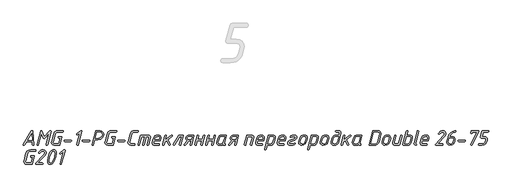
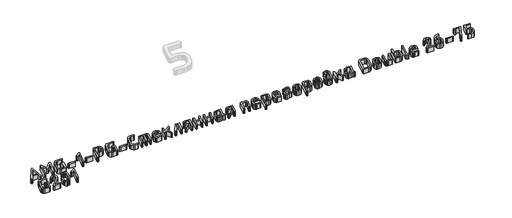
# One storey, part 13 of 22: 1 proxy.
"""IFC4 building model written with IfcOpenShell, lengths in millimetres."""

from ifc_helpers import new_model, si_unit, origin, origin_with_axes, place, context, project, spatial, polyline, outline, extrude, element, save

model = new_model("IFC4")

# Units and contexts
model_context = context("Model", 3, world=origin())
ifc_project = project(units=[si_unit("LENGTHUNIT", "METRE", prefix="MILLI")], contexts=[model_context])

# Site, building, storey
site = spatial("IfcSite", under=ifc_project)
building = spatial("IfcBuilding", under=site)
storey = spatial("IfcBuildingStorey", under=building, Name="Уровень 1", Elevation=0.0)

# Proxy
placement = place(None, origin())
element("IfcBuildingElementProxy", 1, Name="30", ObjectType="30", at=placement, inside=storey, context=model_context, shape_type="SweptSolid", body=[
    extrude(outline(polyline([(-36154.4219264, -25695.2113625), (-36210.5539274, -25695.2113625), (-36231.3287604, -25729.8494015), (-36237.7210168, -25733.5649005), (-36243.0345798, -25731.3276108), (-36245.1919664, -25726.0140477), (-36244.0733215, -25722.0188875), (-36161.4534084, -25586.2633437), (-36154.9812489, -25582.7076511), (-36149.6277342, -25584.4455458), (-36147.4703477, -25589.6592298), (-36137.0429795, -25726.2537573), (-36138.9406806, -25731.7371147), (-36144.6337839, -25733.5649005), (-36149.9573349, -25731.7970421), (-36152.0248303, -25726.493467), (-36154.4219264, -25695.2113625)]), holes=[polyline([(-36155.5405713, -25679.8699473), (-36160.6543764, -25613.3904815), (-36201.3251073, -25679.8699473), (-36155.5405713, -25679.8699473)])]), origin_with_axes(), (0.0, 0.0, 1.0), 50.0),
    extrude(outline(polyline([(-36059.3371135, -25613.3505299), (-36089.9000891, -25727.9716762), (-36092.4370158, -25732.1665945), (-36097.0913775, -25733.5649005), (-36102.3649889, -25731.3276108), (-36104.6821818, -25726.2537573), (-36104.362569, -25723.976516), (-36068.0865143, -25588.3008754), (-36065.5595755, -25584.1059572), (-36060.9351776, -25582.7076511), (-36053.9036956, -25587.2621337), (-36029.8128796, -25644.5527311), (-35973.0816046, -25585.1047472), (-35967.7680415, -25582.7076511), (-35962.1348656, -25584.5654006), (-35960.2571403, -25590.1386491), (-35960.49685, -25592.2960356), (-35996.732953, -25727.9716762), (-35999.3198193, -25732.1665945), (-36003.8842898, -25733.5649005), (-36009.1778771, -25731.3276108), (-36011.5150458, -25726.2537573), (-36011.1554814, -25723.976516), (-35982.5101827, -25616.6665129), (-36027.0961706, -25663.1701777), (-36032.4097337, -25665.4074674), (-36039.2414576, -25660.8929364), (-36059.3371135, -25613.3505299)])), origin_with_axes(), (0.0, 0.0, 1.0), 50.0),
    extrude(outline(polyline([(-35842.6795754, -25598.0490663), (-35891.3406268, -25598.0490663), (-35904.0052846, -25600.8356905), (-35914.512556, -25609.1955633), (-35920.5452479, -25620.5817699), (-35940.7607585, -25695.6907818), (-35941.5597906, -25701.2840061), (-35936.3860581, -25713.5491479), (-35923.5016664, -25718.2234853), (-35884.6287576, -25718.2234853), (-35868.4883104, -25659.4147271), (-35882.2316615, -25659.4147271), (-35887.8648374, -25657.4970502), (-35889.7425627, -25651.7440195), (-35887.8648374, -25645.9909888), (-35882.2316615, -25644.0733119), (-35856.782491, -25644.0733119), (-35852.3478631, -25645.4316663), (-35850.8696539, -25649.5067298), (-35850.9895087, -25651.5442615), (-35871.1251161, -25726.0939509), (-35874.6108934, -25731.6971631), (-35880.9931618, -25733.5649005), (-35927.5767298, -25733.5649005), (-35941.7995002, -25729.4199218), (-35952.8261424, -25716.9849857), (-35957.0210606, -25702.1229897), (-35956.2220285, -25695.8505882), (-35936.1263727, -25620.4219634), (-35926.1784238, -25599.6471304), (-35909.5186057, -25586.9425209), (-35887.2256117, -25582.7076511), (-35842.6795754, -25582.7076511), (-35837.0763632, -25584.625328), (-35835.2086258, -25590.3783587), (-35837.0763632, -25596.1313894), (-35842.6795754, -25598.0490663)])), origin_with_axes(), (0.0, 0.0, 1.0), 50.0),
    extrude(outline(polyline([(-35758.9809691, -25695.2113625), (-35821.0657587, -25695.2113625), (-35826.6689709, -25693.2936856), (-35828.5367083, -25687.5406549), (-35826.6689709, -25681.7876242), (-35821.0657587, -25679.8699473), (-35758.9809691, -25679.8699473), (-35753.3777569, -25681.7876242), (-35751.5100195, -25687.5406549), (-35753.3777569, -25693.2936856), (-35758.9809691, -25695.2113625)])), origin_with_axes(), (0.0, 0.0, 1.0), 50.0),
    extrude(outline(polyline([(-35667.0123811, -25609.7948373), (-35688.4663914, -25626.294849), (-35694.0596157, -25627.7730582), (-35699.1134934, -25624.9964219), (-35700.5317752, -25619.3432702), (-35697.5753567, -25614.3493199), (-35658.5026899, -25585.2645536), (-35654.068062, -25582.7076511), (-35648.4348861, -25584.5654006), (-35646.5571608, -25590.1386491), (-35646.7968704, -25592.2960356), (-35683.0329735, -25727.9716762), (-35685.6198398, -25732.1665945), (-35690.1843103, -25733.5649005), (-35695.4778976, -25731.3276108), (-35697.8150663, -25726.2537573), (-35697.4555019, -25723.976516), (-35667.0123811, -25609.7948373)])), origin_with_axes(), (0.0, 0.0, 1.0), 50.0),
    extrude(outline(polyline([(-35572.3270842, -25695.2113625), (-35634.4118738, -25695.2113625), (-35640.015086, -25693.2936856), (-35641.8828234, -25687.5406549), (-35640.015086, -25681.7876242), (-35634.4118738, -25679.8699473), (-35572.3270842, -25679.8699473), (-35566.723872, -25681.7876242), (-35564.8561346, -25687.5406549), (-35566.723872, -25693.2936856), (-35572.3270842, -25695.2113625)])), origin_with_axes(), (0.0, 0.0, 1.0), 50.0),
    extrude(outline(polyline([(-35481.7168507, -25674.7561423), (-35512.7592455, -25674.7561423), (-35527.3815318, -25728.091531), (-35529.978386, -25732.1965582), (-35534.5728202, -25733.5649005), (-35539.8464317, -25731.3276108), (-35542.1636246, -25726.2537573), (-35541.8440118, -25723.976516), (-35506.1672311, -25590.2585039), (-35502.7114176, -25584.5953643), (-35496.2592338, -25582.7076511), (-35457.386325, -25582.7076511), (-35440.2570756, -25587.731565), (-35427.063059, -25602.8033069), (-35422.0691088, -25621.1810439), (-35422.948044, -25628.7318967), (-35434.9834641, -25653.3620594), (-35455.3487933, -25669.162918), (-35481.7168507, -25674.7561423)]), holes=[polyline([(-35477.6417873, -25659.4147271), (-35461.1917151, -25655.5194459), (-35446.8391021, -25643.8336023), (-35439.8575596, -25632.7769964), (-35437.5303788, -25621.1810439), (-35440.4768094, -25609.3653576), (-35449.3161014, -25601.085388), (-35461.6211948, -25598.0490663), (-35492.623638, -25598.0490663), (-35508.7640853, -25659.4147271), (-35477.6417873, -25659.4147271)])]), origin_with_axes(), (0.0, 0.0, 1.0), 50.0),
    extrude(outline(polyline([(-35295.5024334, -25598.0490663), (-35344.1634847, -25598.0490663), (-35356.8281426, -25600.8356905), (-35367.3354139, -25609.1955633), (-35373.3681058, -25620.5817699), (-35393.5836165, -25695.6907818), (-35394.3826485, -25701.2840061), (-35389.2089161, -25713.5491479), (-35376.3245244, -25718.2234853), (-35337.4516156, -25718.2234853), (-35321.3111683, -25659.4147271), (-35335.0545194, -25659.4147271), (-35340.6876953, -25657.4970502), (-35342.5654206, -25651.7440195), (-35340.6876953, -25645.9909888), (-35335.0545194, -25644.0733119), (-35309.6053489, -25644.0733119), (-35305.1707211, -25645.4316663), (-35303.6925118, -25649.5067298), (-35303.8123666, -25651.5442615), (-35323.9479741, -25726.0939509), (-35327.4337513, -25731.6971631), (-35333.8160198, -25733.5649005), (-35380.3995878, -25733.5649005), (-35394.6223581, -25729.4199218), (-35405.6490003, -25716.9849857), (-35409.8439185, -25702.1229897), (-35409.0448865, -25695.8505882), (-35388.9492306, -25620.4219634), (-35379.0012817, -25599.6471304), (-35362.3414637, -25586.9425209), (-35340.0484697, -25582.7076511), (-35295.5024334, -25582.7076511), (-35289.8992212, -25584.625328), (-35288.0314838, -25590.3783587), (-35289.8992212, -25596.1313894), (-35295.5024334, -25598.0490663)])), origin_with_axes(), (0.0, 0.0, 1.0), 50.0),
    extrude(outline(polyline([(-35211.803827, -25695.2113625), (-35273.8886167, -25695.2113625), (-35279.4918289, -25693.2936856), (-35281.3595662, -25687.5406549), (-35279.4918289, -25681.7876242), (-35273.8886167, -25679.8699473), (-35211.803827, -25679.8699473), (-35206.2006148, -25681.7876242), (-35204.3328774, -25687.5406549), (-35206.2006148, -25693.2936856), (-35211.803827, -25695.2113625)])), origin_with_axes(), (0.0, 0.0, 1.0), 50.0),
    extrude(outline(polyline([(-35047.2831297, -25634.4050242), (-35044.7262271, -25630.1501786), (-35040.0119381, -25628.7318967), (-34968.0591028, -25628.7318967), (-34955.8339125, -25631.7382547), (-34947.3641729, -25640.7573289), (-34944.3278511, -25652.6629063), (-34945.1268832, -25658.6955982), (-34963.7443297, -25728.0116278), (-34966.331196, -25732.1765824), (-34970.8956665, -25733.5649005), (-34976.1892538, -25731.3675624), (-34978.5264225, -25726.3336606), (-34978.1668581, -25724.0564192), (-34960.6680564, -25658.9752595), (-34959.8690243, -25653.4619384), (-34962.915334, -25646.4204685), (-34972.054263, -25644.0733119), (-34987.5954362, -25644.0733119), (-35010.3278978, -25728.0116278), (-35012.914764, -25732.1765824), (-35017.4792345, -25733.5649005), (-35022.7728218, -25731.3675624), (-35025.1099905, -25726.3336606), (-35024.7903777, -25724.0564192), (-35003.0567062, -25644.0733119), (-35034.2189558, -25644.0733119), (-35056.9114658, -25728.0116278), (-35059.5083199, -25732.1765824), (-35064.1027542, -25733.5649005), (-35069.3763656, -25731.3475866), (-35071.6935585, -25726.293709), (-35071.3739457, -25724.0164676), (-35047.2831297, -25634.4050242)])), origin_with_axes(), (0.0, 0.0, 1.0), 50.0),
    extrude(outline(polyline([(-35112.004725, -25718.2234853), (-35106.3715492, -25720.1411622), (-35104.4938239, -25725.8941929), (-35106.3715492, -25731.6472236), (-35112.004725, -25733.5649005), (-35145.0447, -25733.5649005), (-35159.397313, -25729.3899581), (-35170.4139673, -25716.8651309), (-35174.4890307, -25701.9232317), (-35173.6899987, -25695.8505882), (-35153.7141976, -25620.4219634), (-35146.8924616, -25603.9219518), (-35136.4551055, -25592.1362292), (-35122.4021295, -25585.0647956), (-35104.7335335, -25582.7076511), (-35075.8485252, -25582.7076511), (-35070.2153493, -25584.625328), (-35068.337624, -25590.3783587), (-35070.2153493, -25596.1313894), (-35075.8485252, -25598.0490663), (-35108.8085969, -25598.0490663), (-35121.3533999, -25600.8356905), (-35131.9805261, -25609.1955633), (-35138.1330728, -25620.5817699), (-35158.2287286, -25695.6907818), (-35159.0277607, -25701.2840061), (-35153.8540282, -25713.5491479), (-35140.9696366, -25718.2234853), (-35112.004725, -25718.2234853)])), origin_with_axes(), (0.0, 0.0, 1.0), 50.0),
    extrude(outline(polyline([(-34837.5372188, -25665.4873706), (-34843.5699107, -25687.5406549), (-34905.6147487, -25687.5406549), (-34909.6099089, -25702.8820701), (-34910.408941, -25708.4752944), (-34907.3626313, -25715.7864376), (-34898.2237023, -25718.2234853), (-34861.4282768, -25718.2234853), (-34855.7951009, -25720.1411622), (-34853.9173756, -25725.8941929), (-34855.7951009, -25731.6472236), (-34861.4282768, -25733.5649005), (-34902.2188625, -25733.5649005), (-34911.2778883, -25731.80703), (-34918.9585838, -25726.5334186), (-34924.2022316, -25718.8227594), (-34925.9501142, -25709.7537457), (-34925.1510821, -25703.601199), (-34915.1631816, -25666.1665478), (-34908.3064879, -25648.9274315), (-34898.4434361, -25637.4013943), (-34884.6950911, -25630.8992711), (-34866.1825175, -25628.7318967), (-34854.6614742, -25630.804386), (-34845.1080474, -25637.0218541), (-34838.6808334, -25646.2756439), (-34836.5384287, -25657.4570986), (-34837.5372188, -25665.4873706)]), holes=[polyline([(-34853.1183436, -25665.1677578), (-34851.8798439, -25657.3771954), (-34856.4742782, -25647.3992827), (-34870.2575809, -25644.0733119), (-34889.1946403, -25649.3469234), (-34895.4570539, -25655.9389377), (-34899.5820568, -25665.1677578), (-34901.6595401, -25672.1992397), (-34855.0360205, -25672.1992397), (-34853.1183436, -25665.1677578)])]), origin_with_axes(), (0.0, 0.0, 1.0), 50.0),
    extrude(outline(polyline([(-34778.9681701, -25685.2634136), (-34799.063826, -25700.7246836), (-34806.3350176, -25728.0116278), (-34808.8719443, -25732.1765824), (-34813.5263059, -25733.5649005), (-34818.7999174, -25731.3475866), (-34821.1171103, -25726.293709), (-34820.7974975, -25724.0164676), (-34796.7066815, -25634.2851694), (-34794.1797426, -25630.1202149), (-34789.5553447, -25628.7318967), (-34783.9221688, -25630.5796583), (-34782.0444435, -25636.1229431), (-34782.2442015, -25638.2803296), (-34792.5916664, -25676.9534804), (-34731.9051829, -25631.2887992), (-34727.3906519, -25628.7318967), (-34722.1370162, -25631.009138), (-34719.7598959, -25636.1229431), (-34722.8361692, -25642.2355382), (-34766.8228831, -25675.9147387), (-34744.6497439, -25722.777968), (-34743.8507119, -25725.9740961), (-34746.1279532, -25731.2876592), (-34751.4814679, -25733.5649005), (-34758.1533854, -25729.2501275), (-34778.9681701, -25685.2634136)])), origin_with_axes(), (0.0, 0.0, 1.0), 50.0),
    extrude(outline(polyline([(-34617.2041333, -25628.7318967), (-34611.5709574, -25630.5796583), (-34609.6932321, -25636.1229431), (-34609.9329417, -25638.2803296), (-34634.1436126, -25728.0116278), (-34636.7304788, -25732.1765824), (-34641.2949494, -25733.5649005), (-34646.5885367, -25731.3675624), (-34648.9257054, -25726.3336606), (-34648.566141, -25724.0564192), (-34626.9922758, -25644.0733119), (-34644.0116583, -25644.0733119), (-34697.1073375, -25730.0491595), (-34702.980223, -25733.5649005), (-34708.9130359, -25731.7770663), (-34710.9705434, -25726.4135638), (-34709.8119469, -25722.2186455), (-34654.7186877, -25632.3674925), (-34648.2065765, -25628.7318967), (-34617.2041333, -25628.7318967)])), origin_with_axes(), (0.0, 0.0, 1.0), 50.0),
    extrude(outline(polyline([(-34547.3687329, -25687.5406549), (-34588.2791734, -25731.2477076), (-34593.6326881, -25733.5649005), (-34599.2259124, -25731.707151), (-34601.2234925, -25726.1339025), (-34599.066106, -25720.5406783), (-34567.2646307, -25686.5019133), (-34579.4698452, -25678.0321736), (-34584.0842552, -25664.1290161), (-34583.405078, -25658.1362758), (-34577.8617932, -25644.4977976), (-34570.1011945, -25635.4637416), (-34559.2143829, -25630.4148579), (-34544.2924595, -25628.7318967), (-34507.497034, -25628.7318967), (-34502.2034467, -25630.8892832), (-34499.866278, -25636.0030883), (-34500.2258424, -25638.2803296), (-34524.3965617, -25728.0116278), (-34526.9934158, -25732.1765824), (-34531.5878501, -25733.5649005), (-34537.1910623, -25731.6771873), (-34539.0587997, -25726.0140477), (-34538.8590416, -25723.8167096), (-34529.3106088, -25687.5406549), (-34547.3687329, -25687.5406549)]), holes=[polyline([(-34556.3578434, -25672.1992397), (-34525.3154485, -25672.1992397), (-34517.1253701, -25644.0733119), (-34548.2876197, -25644.0733119), (-34560.7824833, -25647.5890529), (-34568.0636628, -25658.1362758), (-34568.74284, -25663.2500809), (-34565.6465908, -25669.96195), (-34556.3578434, -25672.1992397)])]), origin_with_axes(), (0.0, 0.0, 1.0), 50.0),
    extrude(outline(polyline([(-34419.3637998, -25687.5406549), (-34465.9473679, -25687.5406549), (-34476.4945908, -25727.8518214), (-34479.0614812, -25732.1366308), (-34483.805734, -25733.5649005), (-34489.0593697, -25731.3475866), (-34491.3965384, -25726.293709), (-34491.0769256, -25724.0164676), (-34466.9861095, -25634.2851694), (-34464.4491828, -25630.1202149), (-34459.7948211, -25628.7318967), (-34454.4812581, -25630.80938), (-34452.2040167, -25635.8832335), (-34452.4037748, -25637.9607168), (-34461.9522077, -25672.1992397), (-34415.2487848, -25672.1992397), (-34404.7015619, -25634.125363), (-34402.174623, -25630.0802632), (-34397.5502251, -25628.7318967), (-34391.9170492, -25630.5796583), (-34390.0393239, -25636.1229431), (-34390.2790335, -25638.2803296), (-34414.3698496, -25728.0116278), (-34416.8967884, -25732.1765824), (-34421.5211863, -25733.5649005), (-34426.7947978, -25731.307635), (-34429.1119907, -25726.1339025), (-34428.7923779, -25723.8167096), (-34419.3637998, -25687.5406549)])), origin_with_axes(), (0.0, 0.0, 1.0), 50.0),
    extrude(outline(polyline([(-34309.4169909, -25687.5406549), (-34356.0005589, -25687.5406549), (-34366.5477819, -25727.8518214), (-34369.1146723, -25732.1366308), (-34373.8589251, -25733.5649005), (-34379.1125607, -25731.3475866), (-34381.4497295, -25726.293709), (-34381.1301167, -25724.0164676), (-34357.0393006, -25634.2851694), (-34354.5023739, -25630.1202149), (-34349.8480122, -25628.7318967), (-34344.5344491, -25630.80938), (-34342.2572078, -25635.8832335), (-34342.4569658, -25637.9607168), (-34352.0053987, -25672.1992397), (-34305.3019759, -25672.1992397), (-34294.754753, -25634.125363), (-34292.2278141, -25630.0802632), (-34287.6034162, -25628.7318967), (-34281.9702403, -25630.5796583), (-34280.092515, -25636.1229431), (-34280.3322246, -25638.2803296), (-34304.4230407, -25728.0116278), (-34306.9499795, -25732.1765824), (-34311.5743774, -25733.5649005), (-34316.8479889, -25731.307635), (-34319.1651818, -25726.1339025), (-34318.845569, -25723.8167096), (-34309.4169909, -25687.5406549)])), origin_with_axes(), (0.0, 0.0, 1.0), 50.0),
    extrude(outline(polyline([(-34242.538009, -25733.5649005), (-34251.5970348, -25731.8369937), (-34259.2777303, -25726.6532734), (-34264.5213781, -25719.0225174), (-34266.2692607, -25709.9535037), (-34265.4702286, -25703.601199), (-34253.4447964, -25658.6955982), (-34247.8815358, -25644.7924407), (-34239.8213001, -25635.523669), (-34228.9544643, -25630.4298398), (-34214.332178, -25628.7318967), (-34175.4992208, -25628.7318967), (-34170.6051495, -25630.8693074), (-34169.6662869, -25636.2028463), (-34189.9217491, -25710.7525357), (-34190.2413619, -25712.7900674), (-34188.7431768, -25716.8651309), (-34184.2486216, -25718.2234853), (-34179.0449254, -25720.1411622), (-34178.4556393, -25725.8941929), (-34181.7915981, -25731.6472236), (-34188.2038302, -25733.5649005), (-34198.261646, -25731.3875382), (-34203.6651002, -25724.8554513), (-34212.8140171, -25731.3875382), (-34227.076739, -25733.5649005), (-34242.538009, -25733.5649005)]), holes=[polyline([(-34238.5428488, -25718.2234853), (-34223.0016756, -25718.2234853), (-34210.9962192, -25713.6690027), (-34203.3055358, -25703.401441), (-34187.2849434, -25644.0733119), (-34218.3273382, -25644.0733119), (-34231.0718992, -25647.778823), (-34237.9835264, -25658.8953562), (-34249.9290554, -25703.401441), (-34250.7280875, -25708.6750524), (-34247.6817778, -25715.8363771), (-34238.5428488, -25718.2234853)])]), origin_with_axes(), (0.0, 0.0, 1.0), 50.0),
    extrude(outline(polyline([(-34092.240082, -25687.5406549), (-34133.1505226, -25731.2477076), (-34138.5040372, -25733.5649005), (-34144.0972615, -25731.707151), (-34146.0948416, -25726.1339025), (-34143.9374551, -25720.5406783), (-34112.1359799, -25686.5019133), (-34124.3411943, -25678.0321736), (-34128.9556043, -25664.1290161), (-34128.2764271, -25658.1362758), (-34122.7331423, -25644.4977976), (-34114.9725436, -25635.4637416), (-34104.085732, -25630.4148579), (-34089.1638087, -25628.7318967), (-34052.3683832, -25628.7318967), (-34047.0747959, -25630.8892832), (-34044.7376272, -25636.0030883), (-34045.0971916, -25638.2803296), (-34069.2679108, -25728.0116278), (-34071.864765, -25732.1765824), (-34076.4591992, -25733.5649005), (-34082.0624114, -25731.6771873), (-34083.9301488, -25726.0140477), (-34083.7303908, -25723.8167096), (-34074.1819579, -25687.5406549), (-34092.240082, -25687.5406549)]), holes=[polyline([(-34101.2291925, -25672.1992397), (-34070.1867977, -25672.1992397), (-34061.9967193, -25644.0733119), (-34093.1589689, -25644.0733119), (-34105.6538324, -25647.5890529), (-34112.9350119, -25658.1362758), (-34113.6141891, -25663.2500809), (-34110.51794, -25669.96195), (-34101.2291925, -25672.1992397)])]), origin_with_axes(), (0.0, 0.0, 1.0), 50.0),
    extrude(outline(polyline([(-33960.5995532, -25634.4050242), (-33958.0426507, -25630.1501786), (-33953.3283616, -25628.7318967), (-33912.4179211, -25628.7318967), (-33903.0542643, -25630.4198519), (-33895.4185144, -25635.4837174), (-33890.339667, -25643.1244613), (-33888.6467178, -25652.5430515), (-33889.4457499, -25658.6955982), (-33908.1031481, -25728.0116278), (-33910.6700385, -25732.1765824), (-33915.2544848, -25733.5649005), (-33920.5280963, -25731.3675624), (-33922.8452892, -25726.3336606), (-33922.5256764, -25724.0564192), (-33905.0268747, -25658.9752595), (-33904.2278427, -25653.5817932), (-33907.2641644, -25646.4504322), (-33916.3731297, -25644.0733119), (-33947.5353793, -25644.0733119), (-33970.2278893, -25728.0116278), (-33972.8247434, -25732.1765824), (-33977.4191777, -25733.5649005), (-33982.6927891, -25731.3475866), (-33985.0099821, -25726.293709), (-33984.6903692, -25724.0164676), (-33960.5995532, -25634.4050242)])), origin_with_axes(), (0.0, 0.0, 1.0), 50.0),
    extrude(outline(polyline([(-33781.5364727, -25665.4873706), (-33787.5691646, -25687.5406549), (-33849.6140026, -25687.5406549), (-33853.6091628, -25702.8820701), (-33854.4081949, -25708.4752944), (-33851.3618852, -25715.7864376), (-33842.2229562, -25718.2234853), (-33805.4275307, -25718.2234853), (-33799.7943548, -25720.1411622), (-33797.9166295, -25725.8941929), (-33799.7943548, -25731.6472236), (-33805.4275307, -25733.5649005), (-33846.2181164, -25733.5649005), (-33855.2771422, -25731.80703), (-33862.9578377, -25726.5334186), (-33868.2014855, -25718.8227594), (-33869.9493681, -25709.7537457), (-33869.150336, -25703.601199), (-33859.1624355, -25666.1665478), (-33852.3057418, -25648.9274315), (-33842.44269, -25637.4013943), (-33828.694345, -25630.8992711), (-33810.1817714, -25628.7318967), (-33798.6607281, -25630.804386), (-33789.1073013, -25637.0218541), (-33782.6800873, -25646.2756439), (-33780.5376826, -25657.4570986), (-33781.5364727, -25665.4873706)]), holes=[polyline([(-33797.1175975, -25665.1677578), (-33795.8790978, -25657.3771954), (-33800.4735321, -25647.3992827), (-33814.2568348, -25644.0733119), (-33833.1938942, -25649.3469234), (-33839.4563078, -25655.9389377), (-33843.5813107, -25665.1677578), (-33845.658794, -25672.1992397), (-33799.0352744, -25672.1992397), (-33797.1175975, -25665.1677578)])]), origin_with_axes(), (0.0, 0.0, 1.0), 50.0),
    extrude(outline(polyline([(-33740.7059354, -25634.4449758), (-33738.1490328, -25630.1601665), (-33733.4347438, -25628.7318967), (-33692.5243033, -25628.7318967), (-33683.3604045, -25630.4747853), (-33675.684703, -25635.7034512), (-33670.4860008, -25643.3991286), (-33668.7531, -25652.5430515), (-33669.5521321, -25658.6955982), (-33681.6175159, -25703.601199), (-33687.1657946, -25717.4344412), (-33695.1810848, -25726.6532734), (-33706.2127209, -25731.8369937), (-33720.8100375, -25733.5649005), (-33751.8124807, -25733.5649005), (-33762.3996553, -25773.876067), (-33764.9265941, -25778.1608763), (-33769.5509921, -25779.5891461), (-33774.8445793, -25777.3518564), (-33777.1817481, -25772.2780029), (-33776.8221836, -25770.0007616), (-33740.7059354, -25634.4449758)]), holes=[polyline([(-33727.6417615, -25644.0733119), (-33747.8572721, -25718.2234853), (-33716.7349741, -25718.2234853), (-33703.9604493, -25714.5179742), (-33697.0388343, -25703.401441), (-33685.1332569, -25658.8953562), (-33684.3342248, -25653.50189), (-33687.3705466, -25646.4304564), (-33696.4795119, -25644.0733119), (-33727.6417615, -25644.0733119)])]), origin_with_axes(), (0.0, 0.0, 1.0), 50.0),
    extrude(outline(polyline([(-33561.6428548, -25665.4873706), (-33567.6755468, -25687.5406549), (-33629.7203848, -25687.5406549), (-33633.715545, -25702.8820701), (-33634.514577, -25708.4752944), (-33631.4682674, -25715.7864376), (-33622.3293384, -25718.2234853), (-33585.5339129, -25718.2234853), (-33579.900737, -25720.1411622), (-33578.0230117, -25725.8941929), (-33579.900737, -25731.6472236), (-33585.5339129, -25733.5649005), (-33626.3244986, -25733.5649005), (-33635.3835244, -25731.80703), (-33643.0642199, -25726.5334186), (-33648.3078677, -25718.8227594), (-33650.0557502, -25709.7537457), (-33649.2567182, -25703.601199), (-33639.2688177, -25666.1665478), (-33632.412124, -25648.9274315), (-33622.5490722, -25637.4013943), (-33608.8007272, -25630.8992711), (-33590.2881535, -25628.7318967), (-33578.7671103, -25630.804386), (-33569.2136834, -25637.0218541), (-33562.7864695, -25646.2756439), (-33560.6440648, -25657.4570986), (-33561.6428548, -25665.4873706)]), holes=[polyline([(-33577.2239797, -25665.1677578), (-33575.98548, -25657.3771954), (-33580.5799142, -25647.3992827), (-33594.363217, -25644.0733119), (-33613.3002763, -25649.3469234), (-33619.56269, -25655.9389377), (-33623.6876929, -25665.1677578), (-33625.7651762, -25672.1992397), (-33579.1416566, -25672.1992397), (-33577.2239797, -25665.1677578)])]), origin_with_axes(), (0.0, 0.0, 1.0), 50.0),
    extrude(outline(polyline([(-33489.0907455, -25730.6484336), (-33520.2130435, -25733.5649005), (-33528.1434365, -25731.9668364), (-33534.8353299, -25727.1726442), (-33539.3898125, -25720.261017), (-33540.9079734, -25712.3106482), (-33539.2100303, -25703.1517434), (-33534.116201, -25694.3723789), (-33518.5350762, -25682.7065111), (-33473.1900079, -25664.9679998), (-33465.9387921, -25659.7742915), (-33463.5217201, -25651.6241647), (-33465.8289252, -25645.9610251), (-33472.7505402, -25644.0733119), (-33490.6588459, -25645.6913518), (-33504.1924511, -25650.5454714), (-33507.8280469, -25651.5842131), (-33513.1216341, -25649.3069717), (-33515.338948, -25644.0733119), (-33511.5834974, -25637.4413459), (-33493.5453491, -25630.909259), (-33468.75538, -25628.7318967), (-33458.6476247, -25631.4985451), (-33451.0168687, -25639.7984905), (-33448.0604501, -25650.3057618), (-33450.5074858, -25660.823021), (-33457.8485927, -25671.1205465), (-33470.2335893, -25679.3505765), (-33515.5786577, -25696.969233), (-33522.8898008, -25702.2528324), (-33525.3268486, -25710.4329229), (-33523.0595951, -25716.2758447), (-33516.2578349, -25718.2234853), (-33494.663994, -25716.4855906), (-33475.1076848, -25711.2719066), (-33472.3909758, -25710.7125841), (-33466.7577999, -25712.5903094), (-33464.8800746, -25718.2234853), (-33467.3271102, -25723.477121), (-33474.6682171, -25727.4123538), (-33489.0907455, -25730.6484336)])), origin_with_axes(), (0.0, 0.0, 1.0), 50.0),
    extrude(outline(polyline([(-33427.3255687, -25696.1302494), (-33419.3751999, -25666.1665478), (-33412.5185061, -25648.9274315), (-33402.6554544, -25637.4013943), (-33388.9071093, -25630.8992711), (-33370.3945357, -25628.7318967), (-33358.8734925, -25630.8443376), (-33349.3200656, -25637.1816605), (-33342.8928516, -25646.6152326), (-33340.750447, -25658.016421), (-33341.749237, -25666.1665478), (-33349.6996058, -25696.1302494), (-33359.6076031, -25717.6641629), (-33375.2286796, -25729.5897161), (-33398.68027, -25733.5649005), (-33410.2063072, -25731.4524596), (-33419.7747159, -25725.1151367), (-33426.2169117, -25715.6815646), (-33428.3643103, -25704.2803762), (-33427.3255687, -25696.1302494)]), holes=[polyline([(-33365.2807306, -25695.970443), (-33357.3303618, -25666.3263542), (-33356.0918622, -25658.016421), (-33360.6862964, -25647.5590892), (-33374.4695991, -25644.0733119), (-33385.0517797, -25645.464127), (-33393.4665859, -25649.6365725), (-33399.7140177, -25656.5906482), (-33403.794075, -25666.3263542), (-33411.8642987, -25695.970443), (-33413.1427499, -25704.2803762), (-33408.5383278, -25714.737708), (-33394.7250614, -25718.2234853), (-33384.1054261, -25716.8326702), (-33375.6581593, -25712.6602247), (-33369.3832608, -25705.706149), (-33365.2807306, -25695.970443)])]), origin_with_axes(), (0.0, 0.0, 1.0), 50.0),
    extrude(outline(polyline([(-33300.9186997, -25634.4449758), (-33298.3617972, -25630.1601665), (-33293.6475081, -25628.7318967), (-33252.7370676, -25628.7318967), (-33243.5731689, -25630.4747853), (-33235.8974673, -25635.7034512), (-33230.6987651, -25643.3991286), (-33228.9658644, -25652.5430515), (-33229.7648964, -25658.6955982), (-33241.8302802, -25703.601199), (-33247.378559, -25717.4344412), (-33255.3938491, -25726.6532734), (-33266.4254853, -25731.8369937), (-33281.0228019, -25733.5649005), (-33312.0252451, -25733.5649005), (-33322.6124196, -25773.876067), (-33325.1393585, -25778.1608763), (-33329.7637564, -25779.5891461), (-33335.0573437, -25777.3518564), (-33337.3945124, -25772.2780029), (-33337.034948, -25770.0007616), (-33300.9186997, -25634.4449758)]), holes=[polyline([(-33287.8545258, -25644.0733119), (-33308.0700365, -25718.2234853), (-33276.9477384, -25718.2234853), (-33264.1732137, -25714.5179742), (-33257.2515986, -25703.401441), (-33245.3460212, -25658.8953562), (-33244.5469892, -25653.50189), (-33247.5833109, -25646.4304564), (-33256.6922762, -25644.0733119), (-33287.8545258, -25644.0733119)])]), origin_with_axes(), (0.0, 0.0, 1.0), 50.0),
    extrude(outline(polyline([(-33207.4319508, -25696.1302494), (-33199.481582, -25666.1665478), (-33192.6248883, -25648.9274315), (-33182.7618366, -25637.4013943), (-33169.0134915, -25630.8992711), (-33150.5009179, -25628.7318967), (-33138.9798746, -25630.8443376), (-33129.4264478, -25637.1816605), (-33122.9992338, -25646.6152326), (-33120.8568291, -25658.016421), (-33121.8556192, -25666.1665478), (-33129.805988, -25696.1302494), (-33139.7139853, -25717.6641629), (-33155.3350617, -25729.5897161), (-33178.7866521, -25733.5649005), (-33190.3126893, -25731.4524596), (-33199.881098, -25725.1151367), (-33206.3232939, -25715.6815646), (-33208.4706925, -25704.2803762), (-33207.4319508, -25696.1302494)]), holes=[polyline([(-33145.3871128, -25695.970443), (-33137.436744, -25666.3263542), (-33136.1982443, -25658.016421), (-33140.7926786, -25647.5590892), (-33154.5759813, -25644.0733119), (-33165.1581619, -25645.464127), (-33173.5729681, -25649.6365725), (-33179.8203999, -25656.5906482), (-33183.9004572, -25666.3263542), (-33191.9706808, -25695.970443), (-33193.2491321, -25704.2803762), (-33188.64471, -25714.737708), (-33174.8314435, -25718.2234853), (-33164.2118083, -25716.8326702), (-33155.7645414, -25712.6602247), (-33149.4896429, -25705.706149), (-33145.3871128, -25695.970443)])]), origin_with_axes(), (0.0, 0.0, 1.0), 50.0),
    extrude(outline(polyline([(-32997.8458463, -25612.8711107), (-33019.8591791, -25695.8505882), (-33026.8457155, -25713.2744806), (-33036.8585858, -25724.8754271), (-33050.6169187, -25731.3925322), (-33068.8398432, -25733.5649005), (-33080.3658804, -25731.4524596), (-33089.9342891, -25725.1151367), (-33096.376485, -25715.6815646), (-33098.5238836, -25704.2803762), (-33097.4851419, -25696.1302494), (-33089.5347731, -25666.1665478), (-33082.6780794, -25648.9274315), (-33072.8150276, -25637.4013943), (-33059.0666826, -25630.8992711), (-33040.554109, -25628.7318967), (-33017.2623249, -25628.7318967), (-33013.2671647, -25613.3904815), (-33012.5080843, -25607.7972572), (-33015.5743698, -25600.486114), (-33024.7732261, -25598.0490663), (-33046.0274784, -25598.0490663), (-33051.6306906, -25596.1313894), (-33053.498428, -25590.3783587), (-33051.6306906, -25584.625328), (-33046.0274784, -25582.7076511), (-33020.7780659, -25582.7076511), (-33011.6441309, -25584.4655216), (-33003.9784173, -25589.7391331), (-32998.779715, -25597.4997318), (-32997.0468143, -25606.7185639), (-32997.8458463, -25612.8711107)]), holes=[polyline([(-33035.4403039, -25695.970443), (-33021.3373884, -25644.0733119), (-33044.6291724, -25644.0733119), (-33055.211353, -25645.464127), (-33063.6261592, -25649.6365725), (-33069.8735909, -25656.5906482), (-33073.9536483, -25666.3263542), (-33082.0238719, -25695.970443), (-33083.3023232, -25704.2803762), (-33078.697901, -25714.737708), (-33064.8846346, -25718.2234853), (-33054.2649994, -25716.8326702), (-33045.8177325, -25712.6602247), (-33039.542834, -25705.706149), (-33035.4403039, -25695.970443)])]), origin_with_axes(), (0.0, 0.0, 1.0), 50.0),
    extrude(outline(polyline([(-32953.3397616, -25685.2634136), (-32973.4354175, -25700.7246836), (-32980.706609, -25728.0116278), (-32983.2435358, -25732.1765824), (-32987.8978974, -25733.5649005), (-32993.1715089, -25731.3475866), (-32995.4887018, -25726.293709), (-32995.169089, -25724.0164676), (-32971.0782729, -25634.2851694), (-32968.5513341, -25630.1202149), (-32963.9269362, -25628.7318967), (-32958.2937603, -25630.5796583), (-32956.416035, -25636.1229431), (-32956.615793, -25638.2803296), (-32966.9632579, -25676.9534804), (-32906.2767744, -25631.2887992), (-32901.7622433, -25628.7318967), (-32896.5086077, -25631.009138), (-32894.1314873, -25636.1229431), (-32897.2077607, -25642.2355382), (-32941.1944746, -25675.9147387), (-32919.0213354, -25722.777968), (-32918.2223034, -25725.9740961), (-32920.4995447, -25731.2876592), (-32925.8530594, -25733.5649005), (-32932.5249769, -25729.2501275), (-32953.3397616, -25685.2634136)])), origin_with_axes(), (0.0, 0.0, 1.0), 50.0),
    extrude(outline(polyline([(-32856.6968362, -25733.5649005), (-32865.755862, -25731.8369937), (-32873.4365575, -25726.6532734), (-32878.6802052, -25719.0225174), (-32880.4280878, -25709.9535037), (-32879.6290558, -25703.601199), (-32867.6036236, -25658.6955982), (-32862.040363, -25644.7924407), (-32853.9801273, -25635.523669), (-32843.1132915, -25630.4298398), (-32828.4910051, -25628.7318967), (-32789.6580479, -25628.7318967), (-32784.7639767, -25630.8693074), (-32783.825114, -25636.2028463), (-32804.0805763, -25710.7525357), (-32804.4001891, -25712.7900674), (-32802.902004, -25716.8651309), (-32798.4074488, -25718.2234853), (-32793.2037526, -25720.1411622), (-32792.6144665, -25725.8941929), (-32795.9504252, -25731.6472236), (-32802.3626574, -25733.5649005), (-32812.4204732, -25731.3875382), (-32817.8239274, -25724.8554513), (-32826.9728443, -25731.3875382), (-32841.2355662, -25733.5649005), (-32856.6968362, -25733.5649005)]), holes=[polyline([(-32852.701676, -25718.2234853), (-32837.1605028, -25718.2234853), (-32825.1550464, -25713.6690027), (-32817.464363, -25703.401441), (-32801.4437705, -25644.0733119), (-32832.4861653, -25644.0733119), (-32845.2307264, -25647.778823), (-32852.1423536, -25658.8953562), (-32864.0878826, -25703.401441), (-32864.8869146, -25708.6750524), (-32861.840605, -25715.8363771), (-32852.701676, -25718.2234853)])]), origin_with_axes(), (0.0, 0.0, 1.0), 50.0),
    extrude(outline(polyline([(-32673.1192247, -25590.2585039), (-32669.6634111, -25584.5953643), (-32663.2112273, -25582.7076511), (-32616.6276593, -25582.7076511), (-32605.615999, -25585.1946383), (-32595.9926568, -25592.6556), (-32589.2957696, -25603.0829681), (-32587.0634738, -25614.4691747), (-32587.8625058, -25620.4219634), (-32607.9981133, -25695.8505882), (-32614.849813, -25712.3505998), (-32625.297157, -25724.1363224), (-32639.3401451, -25731.207756), (-32656.9787774, -25733.5649005), (-32703.5623454, -25733.5649005), (-32708.5562957, -25731.3276108), (-32709.3553277, -25726.0140477), (-32673.1192247, -25590.2585039)]), holes=[polyline([(-32659.5756316, -25598.0490663), (-32691.7366712, -25718.2234853), (-32652.9836172, -25718.2234853), (-32643.5899968, -25716.5854696), (-32634.7457109, -25711.6714226), (-32627.6592954, -25704.400231), (-32623.5392865, -25695.6907818), (-32603.4436306, -25620.5817699), (-32602.6445986, -25614.9885456), (-32607.8183311, -25602.7234037), (-32620.7027227, -25598.0490663), (-32659.5756316, -25598.0490663)])]), origin_with_axes(), (0.0, 0.0, 1.0), 50.0),
    extrude(outline(polyline([(-32575.8770252, -25696.1302494), (-32567.9266564, -25666.1665478), (-32561.0699627, -25648.9274315), (-32551.2069109, -25637.4013943), (-32537.4585659, -25630.8992711), (-32518.9459922, -25628.7318967), (-32502.0964041, -25633.216464), (-32491.5791448, -25646.670166), (-32489.3019035, -25658.016421), (-32490.3006936, -25666.1665478), (-32498.2510624, -25696.1302494), (-32508.1590597, -25717.7141024), (-32523.7401845, -25729.8094499), (-32547.2317265, -25733.5649005), (-32558.7577637, -25731.4524596), (-32568.3261724, -25725.1151367), (-32574.7683682, -25715.6815646), (-32576.9157669, -25704.2803762), (-32575.8770252, -25696.1302494)]), holes=[polyline([(-32513.8321872, -25695.970443), (-32505.8818184, -25666.3263542), (-32504.6433187, -25658.016421), (-32509.2377529, -25647.5590892), (-32523.0210557, -25644.0733119), (-32533.6032363, -25645.464127), (-32542.0180424, -25649.6365725), (-32548.2654742, -25656.5906482), (-32552.3455316, -25666.3263542), (-32560.4157552, -25695.970443), (-32561.6942065, -25704.2803762), (-32557.0897843, -25714.737708), (-32543.2765179, -25718.2234853), (-32532.6568827, -25716.8326702), (-32524.2096158, -25712.6602247), (-32517.9347173, -25705.706149), (-32513.8321872, -25695.970443)])]), origin_with_axes(), (0.0, 0.0, 1.0), 50.0),
    extrude(outline(polyline([(-32387.3054634, -25634.2851694), (-32384.7785246, -25630.1202149), (-32380.1541266, -25628.7318967), (-32374.5209507, -25630.5796583), (-32372.6432254, -25636.1229431), (-32372.8829351, -25638.2803296), (-32396.6141867, -25726.0939509), (-32400.0799882, -25731.6971631), (-32406.4023292, -25733.5649005), (-32445.1553832, -25733.5649005), (-32454.214409, -25731.80703), (-32461.8951045, -25726.5334186), (-32467.1387523, -25718.8227594), (-32468.8866348, -25709.7537457), (-32468.0876028, -25703.601199), (-32449.590011, -25634.2851694), (-32447.0331085, -25630.1202149), (-32442.3188195, -25628.7318967), (-32436.6856436, -25630.5696704), (-32434.8079183, -25636.0829915), (-32435.0076763, -25638.240378), (-32452.5464296, -25703.3215378), (-32453.30551, -25708.715004), (-32450.2691883, -25715.846365), (-32441.160223, -25718.2234853), (-32410.037925, -25718.2234853), (-32387.3054634, -25634.2851694)])), origin_with_axes(), (0.0, 0.0, 1.0), 50.0),
    extrude(outline(polyline([(-32356.3429718, -25733.5649005), (-32361.5966075, -25731.2876592), (-32363.8139214, -25726.0140477), (-32363.6141634, -25724.0963708), (-32327.3381087, -25588.3008754), (-32324.8111699, -25584.1059572), (-32320.1867719, -25582.7076511), (-32314.553596, -25584.5953643), (-32312.6758707, -25590.2585039), (-32312.9155803, -25592.455842), (-32322.3441584, -25628.7318967), (-32291.3417152, -25628.7318967), (-32282.1778165, -25630.4747853), (-32274.5021149, -25635.7034512), (-32269.3034127, -25643.3991286), (-32267.570512, -25652.5430515), (-32268.369544, -25658.6955982), (-32280.514831, -25703.601199), (-32286.0880795, -25717.5592899), (-32293.9385693, -25726.7531524), (-32304.8253809, -25731.8619635), (-32319.5075947, -25733.5649005), (-32356.3429718, -25733.5649005)]), holes=[polyline([(-32295.2969238, -25644.0733119), (-32326.4591734, -25644.0733119), (-32346.5548293, -25718.2234853), (-32315.4325313, -25718.2234853), (-32302.807825, -25714.5179742), (-32295.8562462, -25703.401441), (-32283.830814, -25658.8953562), (-32283.031782, -25653.50189), (-32286.0980674, -25646.4304564), (-32295.2969238, -25644.0733119)])]), origin_with_axes(), (0.0, 0.0, 1.0), 50.0),
    extrude(outline(polyline([(-32230.9348929, -25718.4631949), (-32225.301717, -25720.3509081), (-32223.4239917, -25726.0140477), (-32225.301717, -25731.6771873), (-32230.9348929, -25733.5649005), (-32244.9579052, -25728.3711923), (-32249.4224967, -25722.5582342), (-32250.9106939, -25715.5067764), (-32250.2315167, -25710.9522938), (-32217.5111546, -25588.3008754), (-32214.954252, -25584.1059572), (-32210.239963, -25582.7076511), (-32204.6067871, -25584.5654006), (-32202.7290618, -25590.1386491), (-32202.9687714, -25592.2960356), (-32234.6903435, -25710.9522938), (-32235.2496659, -25714.3481799), (-32230.9348929, -25718.4631949)])), origin_with_axes(), (0.0, 0.0, 1.0), 50.0),
    extrude(outline(polyline([(-32099.094606, -25665.4873706), (-32105.1272979, -25687.5406549), (-32167.172136, -25687.5406549), (-32171.1672962, -25702.8820701), (-32171.9663282, -25708.4752944), (-32168.9200185, -25715.7864376), (-32159.7810896, -25718.2234853), (-32122.9856641, -25718.2234853), (-32117.3524882, -25720.1411622), (-32115.4747629, -25725.8941929), (-32117.3524882, -25731.6472236), (-32122.9856641, -25733.5649005), (-32163.7762498, -25733.5649005), (-32172.8352756, -25731.80703), (-32180.5159711, -25726.5334186), (-32185.7596188, -25718.8227594), (-32187.5075014, -25709.7537457), (-32186.7084694, -25703.601199), (-32176.7205689, -25666.1665478), (-32169.8638751, -25648.877492), (-32160.0008234, -25637.3614427), (-32146.2524783, -25630.8892832), (-32127.7399047, -25628.7318967), (-32110.8903165, -25633.1265729), (-32100.3730573, -25646.3106016), (-32098.095816, -25657.4570986), (-32099.094606, -25665.4873706)]), holes=[polyline([(-32114.6757308, -25665.1677578), (-32113.4372312, -25657.3771954), (-32118.0316654, -25647.3992827), (-32131.8149681, -25644.0733119), (-32150.7520275, -25649.3469234), (-32157.0144411, -25655.9389377), (-32161.139444, -25665.1677578), (-32163.2169274, -25672.1992397), (-32116.5934077, -25672.1992397), (-32114.6757308, -25665.1677578)])]), origin_with_axes(), (0.0, 0.0, 1.0), 50.0),
    extrude(outline(polyline([(-31987.6296362, -25617.8251093), (-31993.1829089, -25620.5418183), (-31998.4764962, -25618.2645769), (-32000.6938101, -25613.0309171), (-31998.8560364, -25608.1568216), (-31979.5594126, -25589.5793266), (-31967.5939078, -25584.42557), (-31953.9903873, -25582.7076511), (-31939.0484881, -25586.3532348), (-31928.1816523, -25597.2899858), (-31923.9867341, -25612.4715946), (-31927.412584, -25627.7430945), (-31937.6901336, -25642.7149574), (-32006.2470828, -25718.2234853), (-31961.2615789, -25718.2234853), (-31955.628403, -25720.1411622), (-31953.7506777, -25725.8941929), (-31955.628403, -25731.6472236), (-31961.2615789, -25733.5649005), (-32023.3064169, -25733.5649005), (-32028.9096291, -25731.6871752), (-32030.7773665, -25726.0539993), (-32028.8596896, -25720.9002427), (-31948.5170178, -25632.4873473), (-31941.6253664, -25622.5693621), (-31939.3281493, -25613.1108203), (-31944.0124747, -25601.8145048), (-31958.0654507, -25598.0490663), (-31967.5239925, -25600.6359325), (-31978.6405258, -25608.3965312), (-31987.6296362, -25617.8251093)])), origin_with_axes(), (0.0, 0.0, 1.0), 50.0),
    extrude(outline(polyline([(-31885.1138253, -25733.5649005), (-31899.4065109, -25729.4199218), (-31910.4830926, -25716.9849857), (-31914.558156, -25702.0830381), (-31913.759124, -25696.0103946), (-31901.6937402, -25650.4655682), (-31892.7645571, -25627.293639), (-31879.320843, -25608.3565796), (-31858.9455259, -25592.4358662), (-31833.2965974, -25582.7076511), (-31831.3789205, -25582.7076511), (-31825.7457446, -25584.625328), (-31823.8680193, -25590.3783587), (-31825.1165069, -25595.4322363), (-31828.8619696, -25597.5696471), (-31854.1113821, -25607.2379348), (-31872.7787682, -25623.5381884), (-31883.3160032, -25644.0733119), (-31860.9031544, -25644.0733119), (-31849.0774802, -25646.1058496), (-31839.4890957, -25652.2034629), (-31833.136791, -25661.527168), (-31831.0193561, -25673.2379814), (-31832.0580977, -25681.3481566), (-31836.1331611, -25696.2900558), (-31846.0711222, -25717.6941266), (-31861.5823317, -25729.7295467), (-31885.1138253, -25733.5649005)]), holes=[polyline([(-31881.1586167, -25718.2234853), (-31870.583927, -25716.8451551), (-31862.151642, -25712.7101642), (-31855.8617616, -25705.8185129), (-31851.714286, -25696.170201), (-31847.6392225, -25681.4680114), (-31846.3607713, -25673.2379814), (-31851.0251208, -25662.8705407), (-31865.0181694, -25659.4147271), (-31888.3099535, -25659.4147271), (-31898.297854, -25696.170201), (-31899.2167408, -25701.6435705), (-31894.0430084, -25713.6490269), (-31881.1586167, -25718.2234853)])]), origin_with_axes(), (0.0, 0.0, 1.0), 50.0),
    extrude(outline(polyline([(-31731.8594797, -25695.2113625), (-31793.9442694, -25695.2113625), (-31799.5474815, -25693.2936856), (-31801.4152189, -25687.5406549), (-31799.5474815, -25681.7876242), (-31793.9442694, -25679.8699473), (-31731.8594797, -25679.8699473), (-31726.2562675, -25681.7876242), (-31724.3885301, -25687.5406549), (-31726.2562675, -25693.2936856), (-31731.8594797, -25695.2113625)])), origin_with_axes(), (0.0, 0.0, 1.0), 50.0),
    extrude(outline(polyline([(-31555.1535437, -25733.5649005), (-31584.1584068, -25733.5649005), (-31589.761619, -25731.6472236), (-31591.6293564, -25725.8941929), (-31589.761619, -25720.1411622), (-31584.1584068, -25718.2234853), (-31551.1983351, -25718.2234853), (-31540.6236455, -25716.8451551), (-31532.1913604, -25712.7101642), (-31525.9014801, -25705.8185129), (-31521.7540044, -25696.170201), (-31517.678941, -25681.4680114), (-31516.4004897, -25673.2379814), (-31521.0648393, -25662.8705407), (-31535.0578879, -25659.4147271), (-31564.0227994, -25659.4147271), (-31569.3163867, -25657.0975342), (-31571.5337006, -25651.7440195), (-31571.293991, -25649.786391), (-31555.2733985, -25588.5006334), (-31552.716496, -25584.1558967), (-31548.002207, -25582.7076511), (-31493.7079797, -25582.7076511), (-31488.0748039, -25584.625328), (-31486.1970786, -25590.3783587), (-31488.0748039, -25596.1313894), (-31493.7079797, -25598.0490663), (-31542.2092247, -25598.0490663), (-31554.2746085, -25644.0733119), (-31530.9428729, -25644.0733119), (-31519.0572713, -25646.0908678), (-31509.5288142, -25652.1435355), (-31503.2664005, -25661.4522588), (-31501.1789293, -25673.2379814), (-31502.217671, -25681.3481566), (-31506.2927344, -25696.2900558), (-31516.270647, -25717.754054), (-31531.6620017, -25729.7295467), (-31555.1535437, -25733.5649005)])), origin_with_axes(), (0.0, 0.0, 1.0), 50.0),
    extrude(outline(polyline([(-31607.8497069, -25598.5684371), (-31651.716566, -25598.5684371), (-31653.6342429, -25606.9582735), (-31656.8403589, -25612.4516188), (-31662.6233533, -25613.4304331), (-31667.6472673, -25609.6949583), (-31668.176626, -25603.202823), (-31665.4599171, -25591.0575359), (-31662.8430871, -25585.42436), (-31657.9490159, -25583.5466347), (-31595.9041779, -25583.5466347), (-31590.271002, -25585.42436), (-31588.3932767, -25591.0575359), (-31589.0724539, -25594.4534221), (-31656.3509518, -25729.4898371), (-31660.7855796, -25733.2053361), (-31666.7783199, -25733.1254329), (-31670.2141577, -25728.3312407), (-31669.7746901, -25722.777968), (-31607.8497069, -25598.5684371)])), origin_with_axes(), (0.0, 0.0, 1.0), 50.0),
    extrude(outline(polyline([(-36076.1167864, -25813.8493549), (-36081.6700591, -25816.5660638), (-36086.9636463, -25814.2888225), (-36089.1809602, -25809.0551627), (-36087.3431865, -25804.1810672), (-36068.0465627, -25785.6035722), (-36056.0810579, -25780.4498156), (-36042.4775374, -25778.7318967), (-36027.5356382, -25782.3774804), (-36016.6688025, -25793.3142314), (-36012.4738843, -25808.4958402), (-36015.8997341, -25823.7673401), (-36026.1772838, -25838.739203), (-36094.7342329, -25914.2477309), (-36049.748729, -25914.2477309), (-36044.1155531, -25916.1654078), (-36042.2378278, -25921.9184385), (-36044.1155531, -25927.6714692), (-36049.748729, -25929.5891461), (-36111.793567, -25929.5891461), (-36117.3967792, -25927.7114208), (-36119.2645166, -25922.0782449), (-36117.3468397, -25916.9244883), (-36037.0041679, -25828.5115929), (-36030.1125166, -25818.5936077), (-36027.8152995, -25809.1350659), (-36032.4996248, -25797.8387504), (-36046.5526008, -25794.0733119), (-36056.0111426, -25796.6601781), (-36067.1276759, -25804.4207768), (-36076.1167864, -25813.8493549)])), origin_with_axes(), (0.0, 0.0, 1.0), 50.0),
    extrude(outline(polyline([(-36123.9388541, -25794.0733119), (-36172.5999054, -25794.0733119), (-36185.2645632, -25796.8599361), (-36195.7718346, -25805.2198089), (-36201.8045265, -25816.6060154), (-36222.0200371, -25891.7150274), (-36222.8190692, -25897.3082516), (-36217.6453367, -25909.5733935), (-36204.7609451, -25914.2477309), (-36165.8880362, -25914.2477309), (-36149.747589, -25855.4389727), (-36163.4909401, -25855.4389727), (-36169.124116, -25853.5212958), (-36171.0018413, -25847.7682651), (-36169.124116, -25842.0152344), (-36163.4909401, -25840.0975575), (-36138.0417696, -25840.0975575), (-36133.6071418, -25841.4559119), (-36132.1289325, -25845.5309754), (-36132.2487873, -25847.5685071), (-36152.3843947, -25922.1181965), (-36155.870172, -25927.7214087), (-36162.2524404, -25929.5891461), (-36208.8360085, -25929.5891461), (-36223.0587788, -25925.4441674), (-36234.085421, -25913.0092313), (-36238.2803392, -25898.1472353), (-36237.4813072, -25891.8748338), (-36217.3856513, -25816.446209), (-36207.4377024, -25795.671376), (-36190.7778843, -25782.9667665), (-36168.4848904, -25778.7318967), (-36123.9388541, -25778.7318967), (-36118.3356419, -25780.6495736), (-36116.4679045, -25786.4026043), (-36118.3356419, -25792.155635), (-36123.9388541, -25794.0733119)])), origin_with_axes(), (0.0, 0.0, 1.0), 50.0),
    extrude(outline(polyline([(-35926.6977946, -25891.1956565), (-35936.29367, -25907.9928082), (-35947.143027, -25919.9907737), (-35959.2458654, -25927.189553), (-35972.6021854, -25929.5891461), (-35983.3341845, -25927.3044139), (-35990.9998981, -25920.4502171), (-35995.5993263, -25909.0265559), (-35997.1324691, -25893.0334302), (-35992.3682405, -25856.6475086), (-35978.0755549, -25817.2452411), (-35968.4796794, -25800.3956529), (-35957.6303225, -25788.3602328), (-35945.5274841, -25781.1389807), (-35932.1711641, -25778.7318967), (-35921.439165, -25781.0241198), (-35913.7734513, -25787.9007894), (-35909.1740231, -25799.3619052), (-35907.6408804, -25815.4074674), (-35912.405109, -25851.8533164), (-35926.6977946, -25891.1956565)]), holes=[polyline([(-35929.2147455, -25854.1605214), (-35922.9822956, -25815.6871286), (-35926.3182544, -25799.4767661), (-35936.3261307, -25794.0733119), (-35943.6672376, -25796.2282014), (-35951.1082235, -25802.69287), (-35966.2898323, -25828.5515445), (-35975.5586039, -25854.1605214), (-35981.7910539, -25892.6339142), (-35978.4550951, -25908.8442767), (-35968.4472188, -25914.2477309), (-35961.1136028, -25912.0928414), (-35953.6950897, -25905.6281728), (-35938.603372, -25879.7694983), (-35929.2147455, -25854.1605214)])]), origin_with_axes(), (0.0, 0.0, 1.0), 50.0),
    extrude(outline(polyline([(-35838.3248508, -25805.8190829), (-35859.7788611, -25822.3190945), (-35865.3720854, -25823.7973038), (-35870.4259631, -25821.0206675), (-35871.8442449, -25815.3675158), (-35868.8878264, -25810.3735655), (-35829.8151596, -25781.2887992), (-35825.3805317, -25778.7318967), (-35819.7473558, -25780.5896462), (-35817.8696305, -25786.1628947), (-35818.1093402, -25788.3202812), (-35854.3454432, -25923.9959218), (-35856.9323095, -25928.19084), (-35861.49678, -25929.5891461), (-35866.7903673, -25927.3518564), (-35869.127536, -25922.2780029), (-35868.7679716, -25920.0007616), (-35838.3248508, -25805.8190829)])), origin_with_axes(), (0.0, 0.0, 1.0), 50.0),
])

save(model, "model.ifc")
